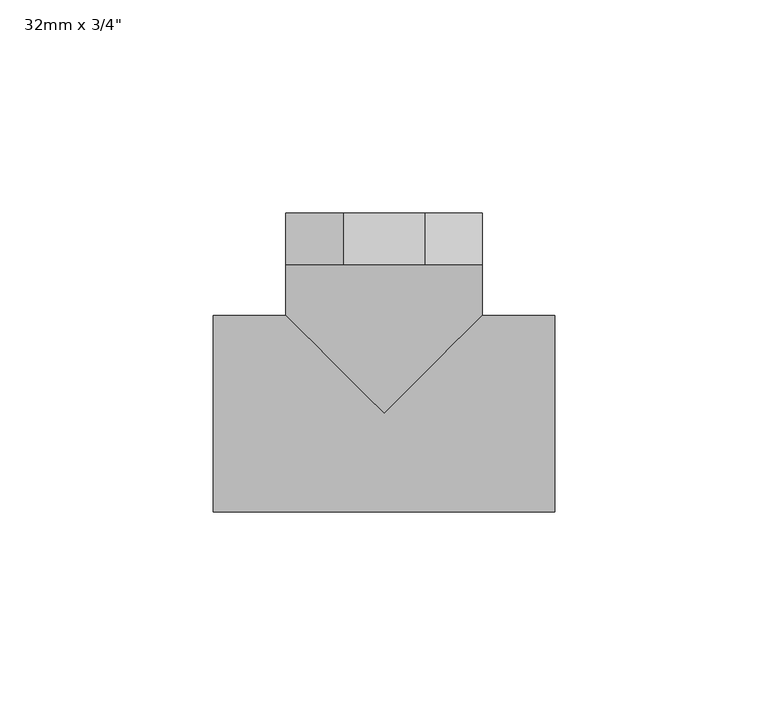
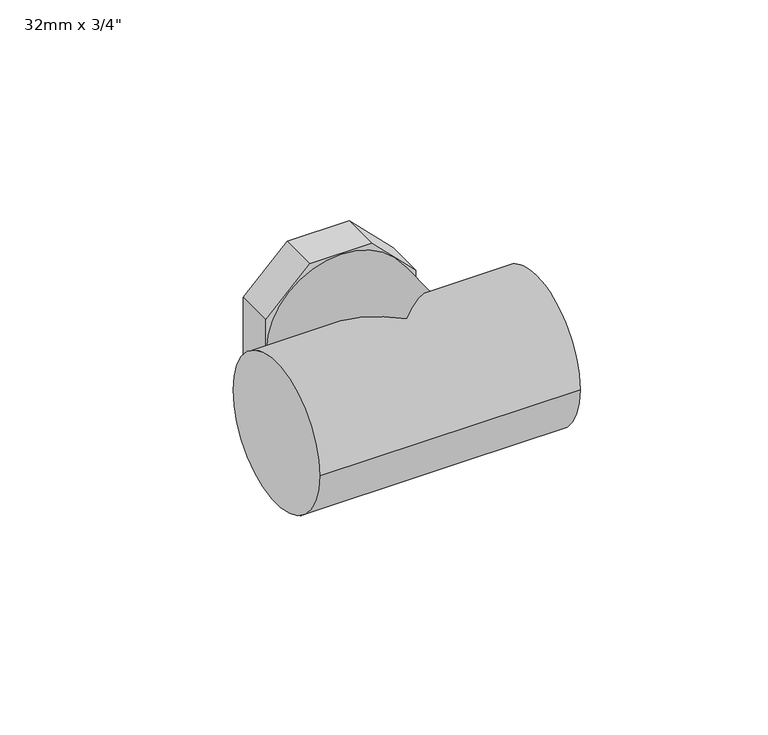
"""IFC4 building model written with IfcOpenShell, lengths in millimetres: pipe fitting geometry."""

from ifc_helpers import new_model, si_unit, frame, origin, place, context, project, spatial, polyline, circle_curve, ellipse_curve, source, transform, mapped, element, save
from ifc_brep_helpers import plane_surface, cylinder_surface, revolved_surface, advanced_brep


def pipe_fitting_5b97bfdf(model_context):
    return source(origin(), model_context, "Body", "AdvancedBrep", [
        advanced_brep(
        [(-9.5269119, 47.0, -23.0), (-23.0, 47.0, -9.5269119), (-23.0, 47.0, 9.5269119), (-9.5269119, 47.0, 23.0), (9.5269119, 47.0, 23.0), (23.0, 47.0, 9.5269119), (23.0, 47.0, -9.5269119), (9.5269119, 47.0, -23.0), (-17.5, 47.0, 0.0), (17.5, 47.0, 0.0), (-9.5269119, 35.0, -23.0), (9.5269119, 35.0, -23.0), (23.0, 35.0, -9.5269119), (23.0, 35.0, 9.5269119), (9.5269119, 35.0, 23.0), (-9.5269119, 35.0, 23.0), (-23.0, 35.0, 9.5269119), (-23.0, 35.0, -9.5269119), (14.0, 35.0, 0.0), (-14.0, 35.0, 0.0), (14.0, 46.8, 0.0), (-14.0, 46.8, 0.0), (-17.5, 46.8, 0.0), (17.5, 46.8, 0.0)],
        [
            (0, 1),
            (1, 2),
            (2, 3),
            (3, 4),
            (4, 5),
            (5, 6),
            (6, 7),
            (7, 0),
            (8, 9, circle_curve(frame((0.0, 47.0, 0.0), z_axis=(0.0, -1.0, 0.0), x_axis=(1.0, 0.0, 0.0)), 17.5)),
            (9, 8, circle_curve(frame((0.0, 47.0, 0.0), z_axis=(0.0, -1.0, 0.0), x_axis=(1.0, 0.0, 0.0)), 17.5)),
            (10, 11),
            (11, 12),
            (12, 13),
            (13, 14),
            (14, 15),
            (15, 16),
            (16, 17),
            (17, 10),
            (18, 19, circle_curve(frame((0.0, 35.0, 0.0), z_axis=(0.0, 1.0, 0.0), x_axis=(1.0, 0.0, 0.0)), 14.0)),
            (19, 18, circle_curve(frame((0.0, 35.0, 0.0), z_axis=(0.0, 1.0, 0.0), x_axis=(1.0, 0.0, 0.0)), 14.0)),
            (0, 10),
            (17, 1),
            (16, 2),
            (15, 3),
            (14, 4),
            (13, 5),
            (12, 6),
            (11, 7),
            (18, 20),
            (20, 21, circle_curve(frame((0.0, 46.8, 0.0), z_axis=(0.0, 1.0, 0.0), x_axis=(1.0, 0.0, 0.0)), 14.0)),
            (21, 19),
            (21, 20, circle_curve(frame((0.0, 46.8, 0.0), z_axis=(0.0, 1.0, 0.0), x_axis=(1.0, 0.0, 0.0)), 14.0)),
            (22, 23, circle_curve(frame((0.0, 46.8, 0.0), z_axis=(0.0, 1.0, 0.0), x_axis=(1.0, 0.0, 0.0)), 17.5)),
            (23, 22, circle_curve(frame((0.0, 46.8, 0.0), z_axis=(0.0, 1.0, 0.0), x_axis=(1.0, 0.0, 0.0)), 17.5)),
            (23, 9),
            (8, 22),
        ],
        [
            plane_surface(frame((0.0, 47.0, 0.0), z_axis=(0.0, 1.0, 0.0), x_axis=(0.0, 0.0, 1.0))),
            plane_surface(frame((0.0, 35.0, 0.0), z_axis=(0.0, -1.0, 0.0), x_axis=(0.0, 0.0, 1.0))),
            plane_surface(frame((-9.5269119, 47.0, -23.0), z_axis=(-0.7071067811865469, 0.0, -0.7071067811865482), x_axis=(0.0, -1.0, 0.0))),
            plane_surface(frame((-23.0, 47.0, -9.5269119), z_axis=(-1.0, 0.0, 0.0), x_axis=(0.0, -1.0, 0.0))),
            plane_surface(frame((-23.0, 47.0, 9.5269119), z_axis=(-0.7071067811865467, 0.0, 0.7071067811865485), x_axis=(0.0, -1.0, 0.0))),
            plane_surface(frame((-9.5269119, 47.0, 23.0), z_axis=(0.0, 0.0, 1.0), x_axis=(0.0, -1.0, 0.0))),
            plane_surface(frame((9.5269119, 47.0, 23.0), z_axis=(0.7071067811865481, 0.0, 0.707106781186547), x_axis=(0.0, -1.0, 0.0))),
            plane_surface(frame((23.0, 47.0, 9.5269119), z_axis=(1.0, 0.0, 0.0), x_axis=(0.0, -1.0, 0.0))),
            plane_surface(frame((23.0, 47.0, -9.5269119), z_axis=(0.707106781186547, 0.0, -0.707106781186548), x_axis=(0.0, -1.0, 0.0))),
            plane_surface(frame((9.5269119, 47.0, -23.0), z_axis=(0.0, 0.0, -1.0), x_axis=(0.0, -1.0, 0.0))),
            revolved_surface(polyline([(14.0, 35.0, 0.0), (14.0, 46.8, 0.0)]), (0.0, 47.0, 0.0), (0.0, -1.0, 0.0)),
            plane_surface(frame((17.5, 46.8, 0.0), z_axis=(0.0, 1.0, 0.0), x_axis=(0.0, 0.0, 1.0))),
            revolved_surface(polyline([(17.5, 46.8, 0.0), (17.5, 47.0, 0.0)]), (0.0, 47.0, 0.0), (0.0, -1.0, 0.0)),
        ],
        [
            (0, [[1, 2, 3, 4, 5, 6, 7, 8], [9, 10]]),
            (1, [[11, 12, 13, 14, 15, 16, 17, 18], [19, 20]]),
            (2, [[-1, 21, -18, 22]]),
            (3, [[-2, -22, -17, 23]]),
            (4, [[-3, -23, -16, 24]]),
            (5, [[-4, -24, -15, 25]]),
            (6, [[-5, -25, -14, 26]]),
            (7, [[-6, -26, -13, 27]]),
            (8, [[-7, -27, -12, 28]]),
            (9, [[-8, -28, -11, -21]]),
            (10, [[-19, 29, 30, 31]]),
            (10, [[-20, -31, 32, -29]]),
            (11, [[33, 34], [-30, -32]]),
            (12, [[-34, 35, -9, 36]]),
            (12, [[-33, -36, -10, -35]]),
        ],
    ),
        advanced_brep(
        [(-40.0, -23.0, 0.0), (-40.0, 23.0, 0.0), (40.0, -23.0, 0.0), (40.0, 23.0, 0.0), (23.0, 23.0, 0.0), (0.0, 0.0, 23.0), (-23.0, 23.0, 0.0), (0.0, 0.0, -23.0), (-23.0, 35.0, 0.0), (23.0, 35.0, 0.0), (-14.0, 35.0, 0.0), (14.0, 35.0, 0.0), (-14.0, 0.0, 0.0), (14.0, 0.0, 0.0)],
        [
            (0, 1, circle_curve(frame((-40.0, 0.0, 0.0), z_axis=(-1.0, 0.0, 0.0), x_axis=(0.0, 1.0, 0.0)), 23.0)),
            (1, 0, circle_curve(frame((-40.0, 0.0, 0.0), z_axis=(-1.0, 0.0, 0.0), x_axis=(0.0, 1.0, 0.0)), 23.0)),
            (2, 3, circle_curve(frame((40.0, 0.0, 0.0), z_axis=(1.0, 0.0, 0.0), x_axis=(0.0, 1.0, 0.0)), 23.0)),
            (3, 2, circle_curve(frame((40.0, 0.0, 0.0), z_axis=(1.0, 0.0, 0.0), x_axis=(0.0, 1.0, 0.0)), 23.0)),
            (0, 2),
            (3, 4),
            (4, 5, ellipse_curve(frame((0.0, 0.0, 0.0), z_axis=(0.7071067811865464, -0.7071067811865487, 0.0), x_axis=(-0.7071067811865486, -0.7071067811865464, 0.0)), 32.5269119, 23.0)),
            (5, 6, ellipse_curve(frame((0.0, 0.0, 0.0), z_axis=(-0.7071067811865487, -0.7071067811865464, 0.0), x_axis=(-0.7071067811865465, 0.7071067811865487, 0.0)), 32.5269119, 23.0)),
            (6, 1),
            (6, 7, ellipse_curve(frame((0.0, 0.0, 0.0), z_axis=(-0.7071067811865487, -0.7071067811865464, 0.0), x_axis=(-0.7071067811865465, 0.7071067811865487, 0.0)), 32.5269119, 23.0)),
            (7, 4, ellipse_curve(frame((0.0, 0.0, 0.0), z_axis=(0.7071067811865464, -0.7071067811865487, 0.0), x_axis=(-0.7071067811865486, -0.7071067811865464, 0.0)), 32.5269119, 23.0)),
            (8, 9, circle_curve(frame((0.0, 35.0, 0.0), z_axis=(0.0, 1.0, 0.0), x_axis=(1.0, 0.0, 0.0)), 23.0)),
            (9, 8, circle_curve(frame((0.0, 35.0, 0.0), z_axis=(0.0, 1.0, 0.0), x_axis=(1.0, 0.0, 0.0)), 23.0)),
            (10, 11, circle_curve(frame((0.0, 35.0, 0.0), z_axis=(0.0, -1.0, 0.0), x_axis=(1.0, 0.0, 0.0)), 14.0)),
            (11, 10, circle_curve(frame((0.0, 35.0, 0.0), z_axis=(0.0, -1.0, 0.0), x_axis=(1.0, 0.0, 0.0)), 14.0)),
            (8, 6),
            (4, 9),
            (12, 13, circle_curve(frame((0.0, 0.0, 0.0), z_axis=(0.0, 1.0, 0.0), x_axis=(1.0, 0.0, 0.0)), 14.0)),
            (13, 12, circle_curve(frame((0.0, 0.0, 0.0), z_axis=(0.0, 1.0, 0.0), x_axis=(1.0, 0.0, 0.0)), 14.0)),
            (13, 11),
            (10, 12),
        ],
        [
            plane_surface(frame((-40.0, 0.0, 0.0), z_axis=(-1.0, 0.0, 0.0), x_axis=(0.0, 0.0, 1.0))),
            plane_surface(frame((40.0, 0.0, 0.0), z_axis=(1.0, 0.0, 0.0), x_axis=(0.0, 0.0, 1.0))),
            cylinder_surface(frame((-40.0, 0.0, 0.0), z_axis=(-1.0, 0.0, 0.0), x_axis=(0.0, 1.0, 0.0)), 23.0),
            plane_surface(frame((0.0, 35.0, 0.0), z_axis=(0.0, 1.0, 0.0), x_axis=(0.0, 0.0, 1.0))),
            cylinder_surface(frame((0.0, 35.0, 0.0), z_axis=(0.0, 1.0, 0.0), x_axis=(1.0, 0.0, 0.0)), 23.0),
            plane_surface(frame((14.0, 0.0, 0.0), z_axis=(0.0, 1.0, 0.0), x_axis=(0.0, 0.0, 1.0))),
            revolved_surface(polyline([(14.0, 0.0, 0.0), (14.0, 35.0, 0.0)]), (0.0, 47.0, 0.0), (0.0, -1.0, 0.0)),
        ],
        [
            (0, [[1, 2]]),
            (1, [[3, 4]]),
            (2, [[-1, 5, -4, 6, 7, 8, 9]]),
            (2, [[-2, -9, 10, 11, -6, -3, -5]]),
            (3, [[12, 13], [14, 15]]),
            (4, [[-12, 16, -8, -7, 17]]),
            (4, [[-13, -17, -11, -10, -16]]),
            (5, [[18, 19]]),
            (6, [[-19, 20, -14, 21]]),
            (6, [[-18, -21, -15, -20]]),
        ],
    ),
    ])


if __name__ == "__main__":
    model = new_model("IFC4")
    model_context = context("Model", 3, world=origin())
    ifc_project = project(units=[si_unit("LENGTHUNIT", "METRE", prefix="MILLI")], contexts=[model_context])
    site = spatial("IfcSite", under=ifc_project)
    building = spatial("IfcBuilding", under=site)
    placement = place(None, origin())
    pipe_fitting_shape = pipe_fitting_5b97bfdf(model_context)
    element("IfcPipeFitting", 1, ObjectType="PipeFitting_HTA_CPVC_Tees90°WithThreadedBrassInsert : 32mm x 3/4\"", at=placement, inside=building, context=model_context, shape_type="MappedRepresentation", body=[
        mapped(pipe_fitting_shape, transform((0.0, 0.0, 0.0), x_axis=(1.0, 0.0, 0.0), y_axis=(0.0, 1.0, 0.0), z_axis=(0.0, 0.0, 1.0))),
    ])
    save(model, "model.ifc")
